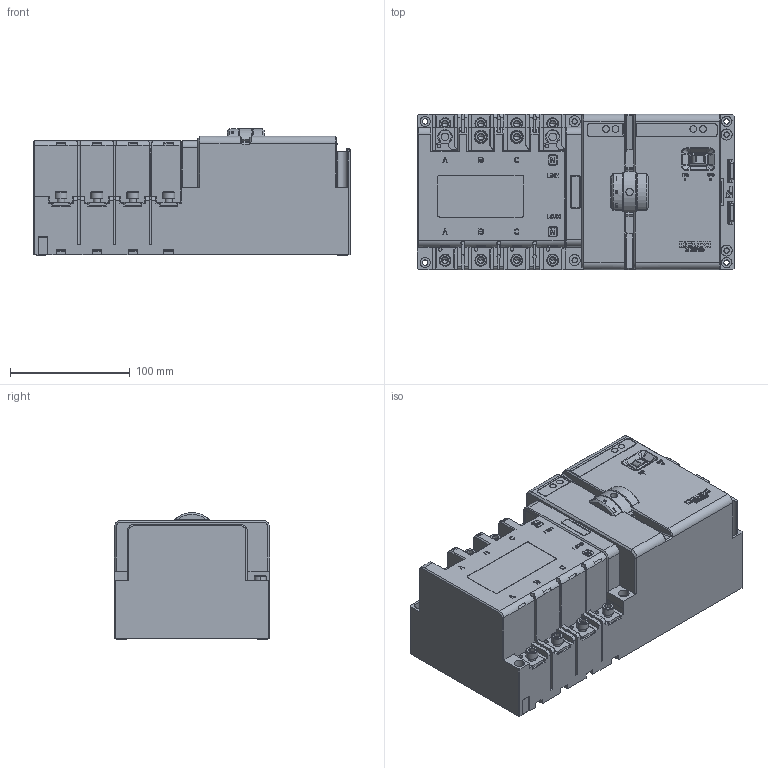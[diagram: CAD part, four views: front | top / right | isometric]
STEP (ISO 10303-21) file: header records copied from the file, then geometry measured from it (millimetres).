
FILE_DESCRIPTION((''),'2;1');
FILE_NAME('2597006900_ASM_29_SW0001','2021-08-23T',('gang.sun'),(''),'PRO/ENGINEER BY PARAMETRIC TECHNOLOGY CORPORATION, 2015440','PRO/ENGINEER BY PARAMETRIC TECHNOLOGY CORPORATION, 2015440','');
FILE_SCHEMA(('CONFIG_CONTROL_DESIGN'));
Products named in the file (1): 2597006900_ASM_29_SW0001
Bounding box: 265.2 x 130 x 106 mm (x, y, z)
Volume: 2420485.9 mm3; surface area: 416556.3 mm2
Topology: 11 solids, 11 shells, 5870 faces, 16371 edges, 10614 vertices
Faces by surface type: plane 3764, cylinder 1280, cone 239, bspline 233, torus 151, extrusion 141, sphere 62
Entity records: 210747 total; most frequent: CARTESIAN_POINT 60380, ORIENTED_EDGE 32578, DIRECTION 29722, EDGE_CURVE 16289, VECTOR 11492, LINE 11351, VERTEX_POINT 10614, AXIS2_PLACEMENT_3D 9115
